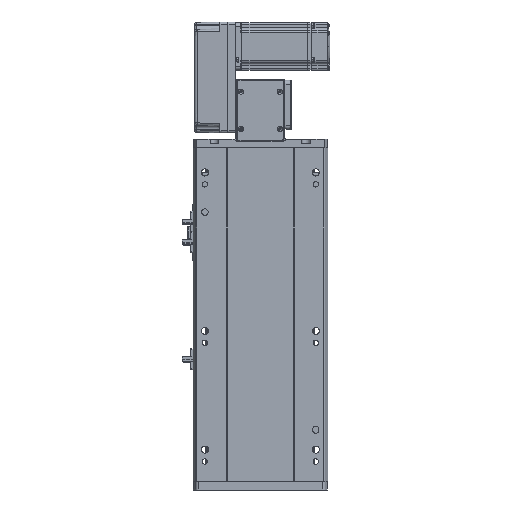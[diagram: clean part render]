
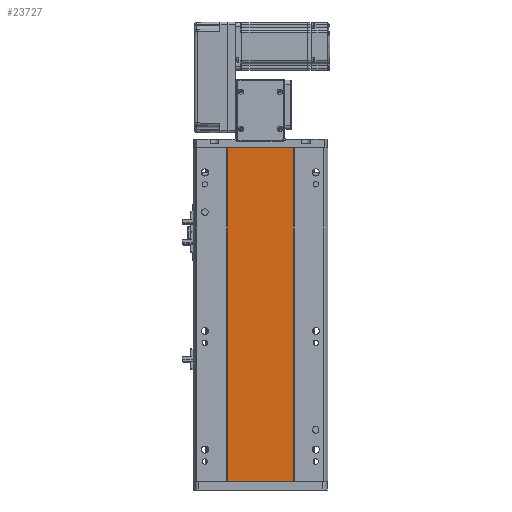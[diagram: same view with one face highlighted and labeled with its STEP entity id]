
A CAD part, front view. The second image highlights one B-rep face of the part: STEP entity #23727.
In plain terms, the highlighted planar face has unit normal (0, -1, 0).
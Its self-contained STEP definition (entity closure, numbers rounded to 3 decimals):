
#2554 = PLANE ( 'NONE',  #59909 ) ;
#5337 = CARTESIAN_POINT ( 'NONE',  ( 41.793, 0.998, 0. ) ) ;
#6027 = VERTEX_POINT ( 'NONE', #39109 ) ;
#8186 = VECTOR ( 'NONE', #26649, 1000. ) ;
#10771 = DIRECTION ( 'NONE',  ( 1., 0., 0. ) ) ;
#11055 = VERTEX_POINT ( 'NONE', #57210 ) ;
#11270 = VECTOR ( 'NONE', #10771, 1000. ) ;
#12175 = ORIENTED_EDGE ( 'NONE', *, *, #59244, .F. ) ;
#12660 = VECTOR ( 'NONE', #57648, 1000. ) ;
#17076 = EDGE_LOOP ( 'NONE', ( #33853, #30374, #12175, #49981 ) ) ;
#17485 = CARTESIAN_POINT ( 'NONE',  ( -41.791, 1., 0. ) ) ;
#22926 = LINE ( 'NONE', #39055, #11270 ) ;
#23727 = ADVANCED_FACE ( 'NONE', ( #42238 ), #2554, .F. ) ;
#24027 = VERTEX_POINT ( 'NONE', #5337 ) ;
#24841 = CARTESIAN_POINT ( 'NONE',  ( -41.791, 1., 421. ) ) ;
#24900 = EDGE_CURVE ( 'NONE', #53373, #24027, #22926, .T. ) ;
#26649 = DIRECTION ( 'NONE',  ( 1., 0., 0. ) ) ;
#28484 = CARTESIAN_POINT ( 'NONE',  ( 41.793, 0.998, 421. ) ) ;
#30374 = ORIENTED_EDGE ( 'NONE', *, *, #45804, .F. ) ;
#33095 = LINE ( 'NONE', #54716, #8186 ) ;
#33853 = ORIENTED_EDGE ( 'NONE', *, *, #24900, .T. ) ;
#34954 = CARTESIAN_POINT ( 'NONE',  ( 0., 0.999, 421. ) ) ;
#39055 = CARTESIAN_POINT ( 'NONE',  ( 0., 0.999, 0. ) ) ;
#39109 = CARTESIAN_POINT ( 'NONE',  ( 41.793, 0.998, 421. ) ) ;
#39490 = DIRECTION ( 'NONE',  ( -1., 0., 0. ) ) ;
#39692 = DIRECTION ( 'NONE',  ( 0., 1., 0. ) ) ;
#42238 = FACE_OUTER_BOUND ( 'NONE', #17076, .T. ) ;
#43470 = LINE ( 'NONE', #24841, #12660 ) ;
#45804 = EDGE_CURVE ( 'NONE', #6027, #24027, #50006, .T. ) ;
#47372 = DIRECTION ( 'NONE',  ( 0., 0., -1. ) ) ;
#49981 = ORIENTED_EDGE ( 'NONE', *, *, #54120, .T. ) ;
#50006 = LINE ( 'NONE', #28484, #53631 ) ;
#53373 = VERTEX_POINT ( 'NONE', #17485 ) ;
#53631 = VECTOR ( 'NONE', #47372, 1000. ) ;
#54120 = EDGE_CURVE ( 'NONE', #11055, #53373, #43470, .T. ) ;
#54716 = CARTESIAN_POINT ( 'NONE',  ( 0., 0.999, 421. ) ) ;
#57210 = CARTESIAN_POINT ( 'NONE',  ( -41.791, 1., 421. ) ) ;
#57648 = DIRECTION ( 'NONE',  ( 0., 0., -1. ) ) ;
#59244 = EDGE_CURVE ( 'NONE', #11055, #6027, #33095, .T. ) ;
#59909 = AXIS2_PLACEMENT_3D ( 'NONE', #34954, #39692, #39490 ) ;
